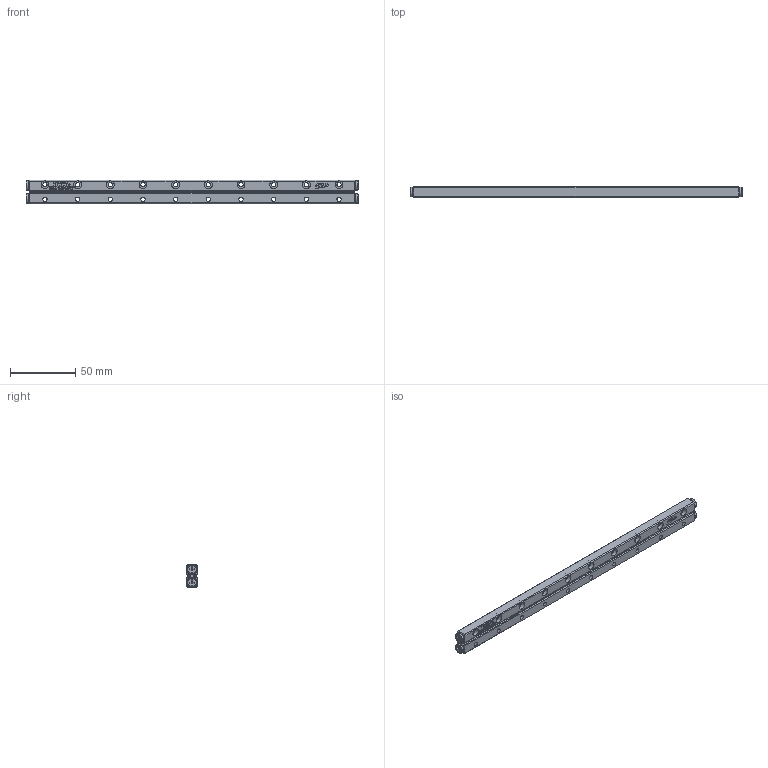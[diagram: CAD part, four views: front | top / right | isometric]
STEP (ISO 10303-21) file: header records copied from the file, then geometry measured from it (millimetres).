
FILE_DESCRIPTION (( 'STEP AP203' ), '1' );
FILE_NAME ('GRV03-250.STEP', '2023-10-20T03:38:44', ( '' ), ( '' ), 'SwSTEP 2.0', 'SolidWorks 2019', '' );
FILE_SCHEMA (( 'CONFIG_CONTROL_DESIGN' ));
Length unit declared in the file: millimetre
Products named in the file (3): GRV03-250-模糊化軌道; GRV03-250; GRVP03-250-模糊化保持器組
Assembly tree (3 placements, depth 2):
  GRV03-250
    GRV03-250-模糊化軌道  x2
    GRVP03-250-模糊化保持器組
Bounding box: 254 x 8 x 18 mm (x, y, z)
Volume: 30435.7 mm3; surface area: 22382.4 mm2
Topology: 3 solids, 3 shells, 1282 faces, 3172 edges, 2064 vertices
Faces by surface type: plane 812, cylinder 226, bspline 140, torus 68, cone 36
Full cylindrical faces by diameter (mm): 3.3 x20, 6 x20, 7.5 x4
Entity records: 30970 total; most frequent: CARTESIAN_POINT 10297, ORIENTED_EDGE 4374, DIRECTION 3751, EDGE_CURVE 2187, VERTEX_POINT 1446, LINE 1359, VECTOR 1359, AXIS2_PLACEMENT_3D 1196
